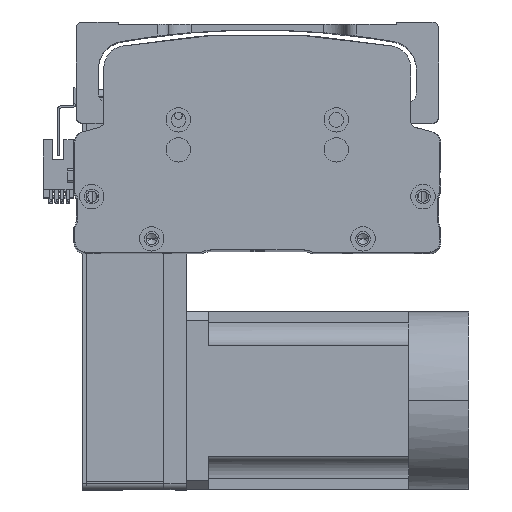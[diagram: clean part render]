
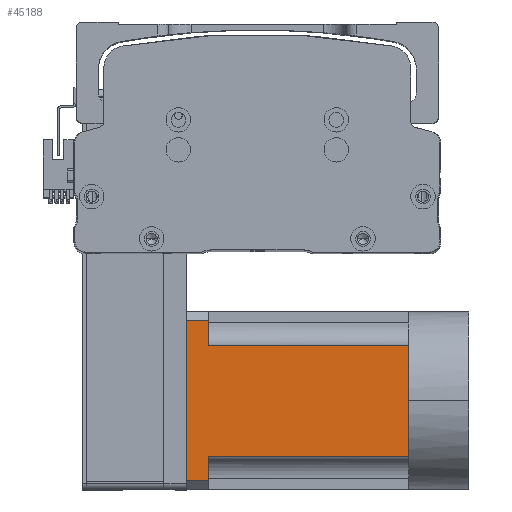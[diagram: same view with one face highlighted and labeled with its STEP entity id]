
A CAD part, top view. The second image highlights one B-rep face of the part: STEP entity #45188.
In plain terms, the highlighted planar face has unit normal (0, 0, 1) as drawn and (0, 0, -1) by its records, which use the part's own axes.
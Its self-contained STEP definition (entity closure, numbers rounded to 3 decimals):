
#413 = CARTESIAN_POINT ( 'NONE',  ( -36., 100., -40. ) ) ;
#1339 = CARTESIAN_POINT ( 'NONE',  ( -40., 90., -40. ) ) ;
#2231 = DIRECTION ( 'NONE',  ( -1., 0., 0. ) ) ;
#3076 = CARTESIAN_POINT ( 'NONE',  ( 25., 90., -40. ) ) ;
#3818 = VERTEX_POINT ( 'NONE', #37256 ) ;
#4311 = ORIENTED_EDGE ( 'NONE', *, *, #27723, .T. ) ;
#5179 = CARTESIAN_POINT ( 'NONE',  ( 25., -27., -40. ) ) ;
#5198 = ORIENTED_EDGE ( 'NONE', *, *, #20707, .T. ) ;
#6554 = LINE ( 'NONE', #21361, #42107 ) ;
#6620 = LINE ( 'NONE', #8871, #20376 ) ;
#7397 = DIRECTION ( 'NONE',  ( 0., 1., 0. ) ) ;
#7594 = VECTOR ( 'NONE', #9580, 1000. ) ;
#8644 = DIRECTION ( 'NONE',  ( 0., 0., -1. ) ) ;
#8871 = CARTESIAN_POINT ( 'NONE',  ( -40., 0., -40. ) ) ;
#9076 = DIRECTION ( 'NONE',  ( -1., 0., 0. ) ) ;
#9580 = DIRECTION ( 'NONE',  ( 0., -1., 0. ) ) ;
#12362 = ORIENTED_EDGE ( 'NONE', *, *, #16403, .T. ) ;
#13083 = CARTESIAN_POINT ( 'NONE',  ( -40., -27., -40. ) ) ;
#13735 = ORIENTED_EDGE ( 'NONE', *, *, #53734, .T. ) ;
#14130 = EDGE_CURVE ( 'NONE', #44298, #21926, #41692, .T. ) ;
#15105 = ORIENTED_EDGE ( 'NONE', *, *, #14130, .T. ) ;
#16317 = LINE ( 'NONE', #5179, #38137 ) ;
#16403 = EDGE_CURVE ( 'NONE', #28069, #3818, #20821, .T. ) ;
#16892 = CARTESIAN_POINT ( 'NONE',  ( -36., 90., -40. ) ) ;
#19810 = VECTOR ( 'NONE', #27748, 1000. ) ;
#20098 = DIRECTION ( 'NONE',  ( -1., 0., 0. ) ) ;
#20376 = VECTOR ( 'NONE', #9076, 1000. ) ;
#20707 = EDGE_CURVE ( 'NONE', #27516, #40188, #6554, .T. ) ;
#20821 = LINE ( 'NONE', #55657, #42633 ) ;
#21361 = CARTESIAN_POINT ( 'NONE',  ( -36., -27., -40. ) ) ;
#21926 = VERTEX_POINT ( 'NONE', #32985 ) ;
#23177 = DIRECTION ( 'NONE',  ( 0., 1., 0. ) ) ;
#23371 = ORIENTED_EDGE ( 'NONE', *, *, #57652, .F. ) ;
#23581 = DIRECTION ( 'NONE',  ( 0., -1., 0. ) ) ;
#23822 = ORIENTED_EDGE ( 'NONE', *, *, #58011, .T. ) ;
#25640 = VECTOR ( 'NONE', #20098, 1000. ) ;
#27516 = VERTEX_POINT ( 'NONE', #16892 ) ;
#27723 = EDGE_CURVE ( 'NONE', #28439, #39394, #16317, .T. ) ;
#27748 = DIRECTION ( 'NONE',  ( -1., 0., 0. ) ) ;
#28069 = VERTEX_POINT ( 'NONE', #32295 ) ;
#28439 = VERTEX_POINT ( 'NONE', #3076 ) ;
#32166 = LINE ( 'NONE', #41564, #19810 ) ;
#32295 = CARTESIAN_POINT ( 'NONE',  ( -25., 0., -40. ) ) ;
#32985 = CARTESIAN_POINT ( 'NONE',  ( 36., 90., -40. ) ) ;
#33616 = LINE ( 'NONE', #1339, #58260 ) ;
#33663 = DIRECTION ( 'NONE',  ( -1., 0., 0. ) ) ;
#35102 = EDGE_CURVE ( 'NONE', #57888, #28069, #46390, .T. ) ;
#37256 = CARTESIAN_POINT ( 'NONE',  ( -25., 90., -40. ) ) ;
#37325 = CARTESIAN_POINT ( 'NONE',  ( 36., -27., -40. ) ) ;
#37973 = AXIS2_PLACEMENT_3D ( 'NONE', #13083, #8644, #41068 ) ;
#38137 = VECTOR ( 'NONE', #23581, 1000. ) ;
#39394 = VERTEX_POINT ( 'NONE', #59788 ) ;
#39429 = LINE ( 'NONE', #52539, #25640 ) ;
#40027 = ORIENTED_EDGE ( 'NONE', *, *, #49492, .T. ) ;
#40143 = CARTESIAN_POINT ( 'NONE',  ( 0., 0., -40. ) ) ;
#40188 = VERTEX_POINT ( 'NONE', #413 ) ;
#41068 = DIRECTION ( 'NONE',  ( -1., 0., 0. ) ) ;
#41564 = CARTESIAN_POINT ( 'NONE',  ( -40., 90., -40. ) ) ;
#41692 = LINE ( 'NONE', #37325, #7594 ) ;
#42107 = VECTOR ( 'NONE', #7397, 1000. ) ;
#42382 = EDGE_LOOP ( 'NONE', ( #23371, #15105, #40027, #4311, #13735, #58788, #12362, #23822, #5198 ) ) ;
#42633 = VECTOR ( 'NONE', #23177, 1000. ) ;
#43209 = CARTESIAN_POINT ( 'NONE',  ( 36., 100., -40. ) ) ;
#44298 = VERTEX_POINT ( 'NONE', #43209 ) ;
#45188 = ADVANCED_FACE ( 'NONE', ( #50104 ), #49969, .T. ) ;
#46390 = LINE ( 'NONE', #57700, #49265 ) ;
#49265 = VECTOR ( 'NONE', #2231, 1000. ) ;
#49492 = EDGE_CURVE ( 'NONE', #21926, #28439, #33616, .T. ) ;
#49969 = PLANE ( 'NONE',  #37973 ) ;
#50104 = FACE_OUTER_BOUND ( 'NONE', #42382, .T. ) ;
#52539 = CARTESIAN_POINT ( 'NONE',  ( -40., 100., -40. ) ) ;
#53734 = EDGE_CURVE ( 'NONE', #39394, #57888, #6620, .T. ) ;
#55657 = CARTESIAN_POINT ( 'NONE',  ( -25., -27., -40. ) ) ;
#57652 = EDGE_CURVE ( 'NONE', #44298, #40188, #39429, .T. ) ;
#57700 = CARTESIAN_POINT ( 'NONE',  ( -40., 0., -40. ) ) ;
#57888 = VERTEX_POINT ( 'NONE', #40143 ) ;
#58011 = EDGE_CURVE ( 'NONE', #3818, #27516, #32166, .T. ) ;
#58260 = VECTOR ( 'NONE', #33663, 1000. ) ;
#58788 = ORIENTED_EDGE ( 'NONE', *, *, #35102, .T. ) ;
#59788 = CARTESIAN_POINT ( 'NONE',  ( 25., 0., -40. ) ) ;
